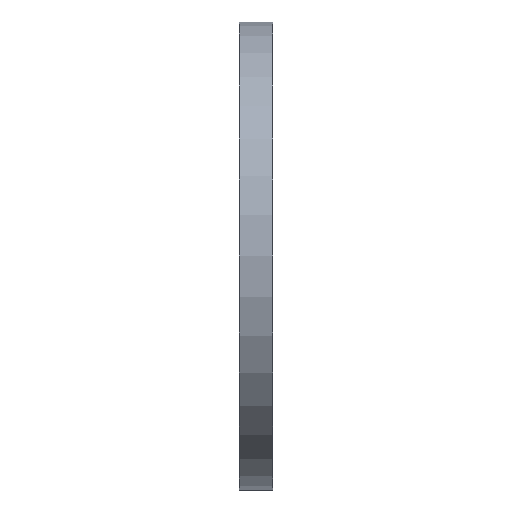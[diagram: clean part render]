
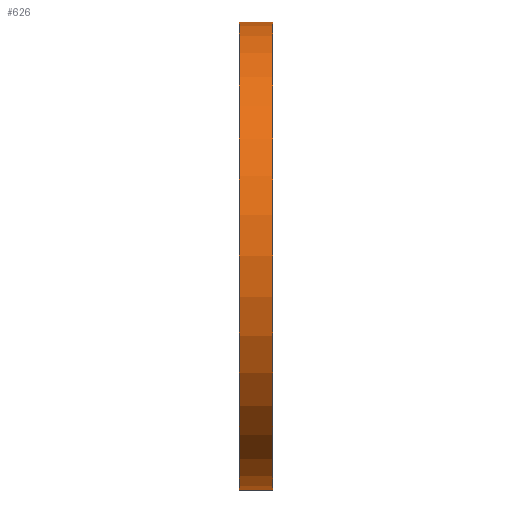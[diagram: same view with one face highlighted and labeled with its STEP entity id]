
A CAD part, left-side view. The second image highlights one B-rep face of the part: STEP entity #626.
In plain terms, the highlighted cylindrical face has radius 170 mm (diameter 340 mm), a partial arc.
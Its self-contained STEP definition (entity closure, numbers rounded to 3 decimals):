
#6 = ORIENTED_EDGE ( 'NONE', *, *, #239, .T. ) ;
#20 = ORIENTED_EDGE ( 'NONE', *, *, #179, .T. ) ;
#29 = ORIENTED_EDGE ( 'NONE', *, *, #297, .F. ) ;
#31 = CIRCLE ( 'NONE', #846, 170. ) ;
#71 = VERTEX_POINT ( 'NONE', #366 ) ;
#113 = CARTESIAN_POINT ( 'NONE',  ( 0., 34.695, 0. ) ) ;
#116 = CARTESIAN_POINT ( 'NONE',  ( 0., 34.695, 170. ) ) ;
#119 = CARTESIAN_POINT ( 'NONE',  ( 0., 0., 0. ) ) ;
#125 = DIRECTION ( 'NONE',  ( 0., 1., 0. ) ) ;
#134 = LINE ( 'NONE', #700, #581 ) ;
#161 = EDGE_LOOP ( 'NONE', ( #525, #20, #6, #29 ) ) ;
#179 = EDGE_CURVE ( 'NONE', #799, #701, #31, .T. ) ;
#193 = CARTESIAN_POINT ( 'NONE',  ( 0., 0., 170. ) ) ;
#239 = EDGE_CURVE ( 'NONE', #701, #354, #380, .T. ) ;
#240 = DIRECTION ( 'NONE',  ( 0., 0., 1. ) ) ;
#256 = CIRCLE ( 'NONE', #763, 170. ) ;
#268 = AXIS2_PLACEMENT_3D ( 'NONE', #113, #450, #803 ) ;
#297 = EDGE_CURVE ( 'NONE', #71, #354, #256, .T. ) ;
#336 = CARTESIAN_POINT ( 'NONE',  ( 0., 24., 170. ) ) ;
#340 = EDGE_CURVE ( 'NONE', #799, #71, #134, .T. ) ;
#354 = VERTEX_POINT ( 'NONE', #336 ) ;
#366 = CARTESIAN_POINT ( 'NONE',  ( 0., 24., -170. ) ) ;
#380 = LINE ( 'NONE', #116, #622 ) ;
#385 = DIRECTION ( 'NONE',  ( 0., 1., 0. ) ) ;
#398 = DIRECTION ( 'NONE',  ( 0., 0., 1. ) ) ;
#409 = DIRECTION ( 'NONE',  ( 0., 1., 0. ) ) ;
#450 = DIRECTION ( 'NONE',  ( 0., 1., 0. ) ) ;
#525 = ORIENTED_EDGE ( 'NONE', *, *, #340, .F. ) ;
#534 = FACE_OUTER_BOUND ( 'NONE', #161, .T. ) ;
#581 = VECTOR ( 'NONE', #409, 1000. ) ;
#592 = DIRECTION ( 'NONE',  ( 0., 1., 0. ) ) ;
#622 = VECTOR ( 'NONE', #125, 1000. ) ;
#626 = ADVANCED_FACE ( 'NONE', ( #534 ), #868, .T. ) ;
#667 = CARTESIAN_POINT ( 'NONE',  ( 0., 24., 0. ) ) ;
#700 = CARTESIAN_POINT ( 'NONE',  ( 0., 34.695, -170. ) ) ;
#701 = VERTEX_POINT ( 'NONE', #193 ) ;
#763 = AXIS2_PLACEMENT_3D ( 'NONE', #667, #592, #398 ) ;
#799 = VERTEX_POINT ( 'NONE', #812 ) ;
#803 = DIRECTION ( 'NONE',  ( 0., 0., 1. ) ) ;
#812 = CARTESIAN_POINT ( 'NONE',  ( 0., 0., -170. ) ) ;
#846 = AXIS2_PLACEMENT_3D ( 'NONE', #119, #385, #240 ) ;
#868 = CYLINDRICAL_SURFACE ( 'NONE', #268, 170. ) ;
